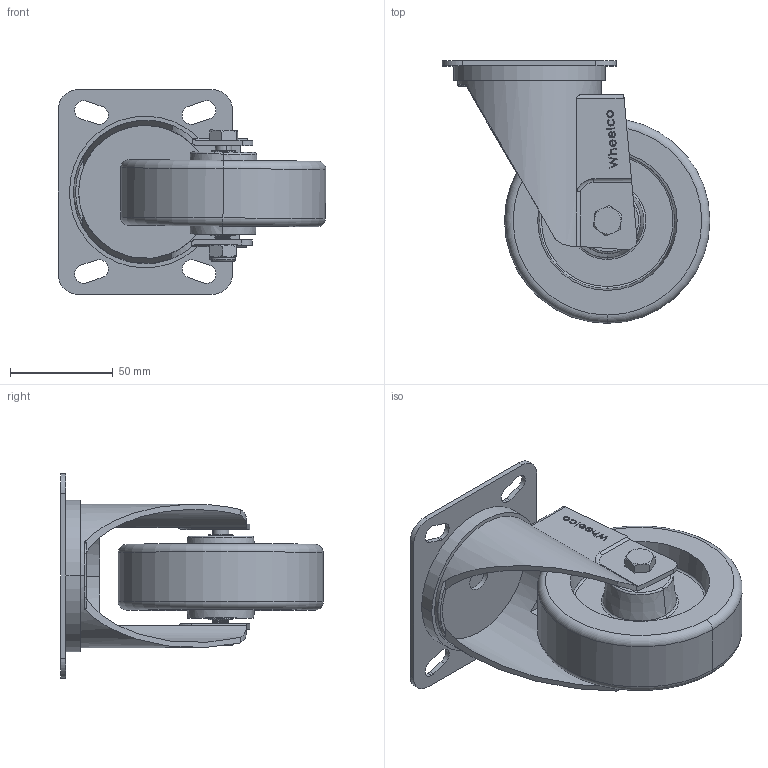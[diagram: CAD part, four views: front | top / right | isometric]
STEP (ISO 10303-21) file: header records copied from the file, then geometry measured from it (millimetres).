
FILE_DESCRIPTION (( 'STEP AP214' ), '1' );
FILE_NAME ('MDU100-P.step', '2024-01-21T22:16:10', ( '' ), ( '' ), 'SwSTEP 2.0', 'SolidWorks 2022', '' );
FILE_SCHEMA (( 'AUTOMOTIVE_DESIGN' ));
Length unit declared in the file: millimetre
Products named in the file (7): M8x55; SP12-8-41; MS100-SP; 100X85 ANGLED; MCU100; M8Nyloc; MDU100-P
Assembly tree (6 placements, depth 2):
  MDU100-P
    MS100-SP
    M8x55
    M8Nyloc
    100X85 ANGLED
    MCU100
    SP12-8-41
Bounding box: 130.59 x 128 x 100 mm (x, y, z)
Volume: 257284 mm3; surface area: 89843.5 mm2
Topology: 6 solids, 6 shells, 332 faces, 867 edges, 567 vertices
Faces by surface type: cylinder 122, plane 106, bspline 53, cone 28, torus 21, sphere 2
Entity records: 18450 total; most frequent: CARTESIAN_POINT 10269, ORIENTED_EDGE 1734, DIRECTION 1333, EDGE_CURVE 867, VERTEX_POINT 567, AXIS2_PLACEMENT_3D 468, LINE 397, VECTOR 397
